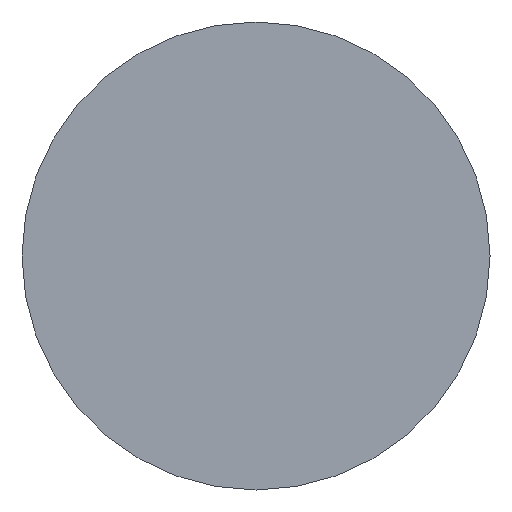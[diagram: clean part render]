
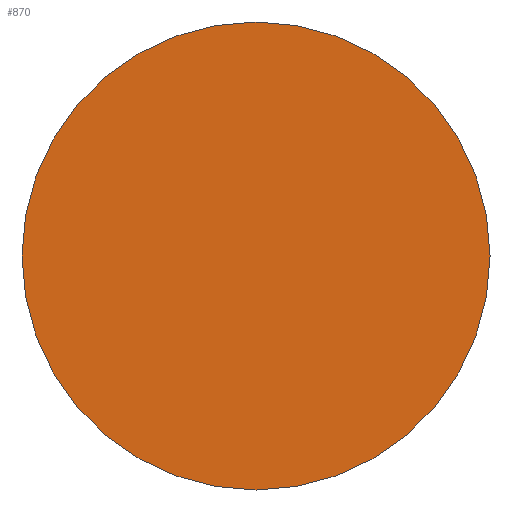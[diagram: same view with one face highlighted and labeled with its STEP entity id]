
A CAD part, front view. The second image highlights one B-rep face of the part: STEP entity #870.
In plain terms, the highlighted planar face has unit normal (0, -1, 0).
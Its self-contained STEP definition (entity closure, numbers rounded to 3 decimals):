
#39 = EDGE_CURVE ( 'NONE', #680, #1109, #1172, .T. ) ;
#45 = DIRECTION ( 'NONE',  ( 0., 0., 1. ) ) ;
#194 = EDGE_LOOP ( 'NONE', ( #658, #222 ) ) ;
#207 = CARTESIAN_POINT ( 'NONE',  ( 0., 0., 0. ) ) ;
#222 = ORIENTED_EDGE ( 'NONE', *, *, #270, .F. ) ;
#237 = PLANE ( 'NONE',  #681 ) ;
#270 = EDGE_CURVE ( 'NONE', #1109, #680, #913, .T. ) ;
#294 = AXIS2_PLACEMENT_3D ( 'NONE', #1261, #652, #45 ) ;
#329 = DIRECTION ( 'NONE',  ( 0., 0., 1. ) ) ;
#441 = DIRECTION ( 'NONE',  ( 0., 0., 1. ) ) ;
#465 = AXIS2_PLACEMENT_3D ( 'NONE', #207, #920, #329 ) ;
#652 = DIRECTION ( 'NONE',  ( 0., 1., 0. ) ) ;
#658 = ORIENTED_EDGE ( 'NONE', *, *, #39, .F. ) ;
#680 = VERTEX_POINT ( 'NONE', #1302 ) ;
#681 = AXIS2_PLACEMENT_3D ( 'NONE', #1152, #1057, #441 ) ;
#782 = FACE_OUTER_BOUND ( 'NONE', #194, .T. ) ;
#870 = ADVANCED_FACE ( 'NONE', ( #782 ), #237, .F. ) ;
#913 = CIRCLE ( 'NONE', #465, 15. ) ;
#920 = DIRECTION ( 'NONE',  ( 0., 1., 0. ) ) ;
#1057 = DIRECTION ( 'NONE',  ( 0., 1., 0. ) ) ;
#1109 = VERTEX_POINT ( 'NONE', #1140 ) ;
#1140 = CARTESIAN_POINT ( 'NONE',  ( 0., 0., -15. ) ) ;
#1152 = CARTESIAN_POINT ( 'NONE',  ( 0., 0., 0. ) ) ;
#1172 = CIRCLE ( 'NONE', #294, 15. ) ;
#1261 = CARTESIAN_POINT ( 'NONE',  ( 0., 0., 0. ) ) ;
#1302 = CARTESIAN_POINT ( 'NONE',  ( 0., 0., 15. ) ) ;
